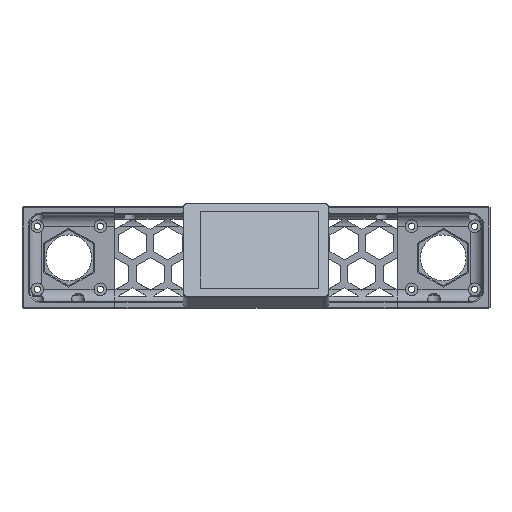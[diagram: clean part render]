
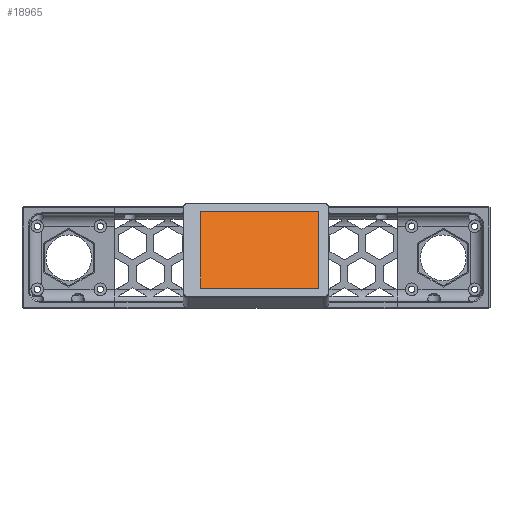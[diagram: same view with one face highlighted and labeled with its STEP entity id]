
A CAD part, top view. The second image highlights one B-rep face of the part: STEP entity #18965.
In plain terms, the highlighted planar face has unit normal (0, 0.5, 0.866) as drawn and (0, 0, 1) by its records, which use the part's own axes.
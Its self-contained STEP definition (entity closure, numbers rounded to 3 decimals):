
#1156=PLANE('',#20264);
#2113=FACE_OUTER_BOUND('',#3259,.T.);
#3259=EDGE_LOOP('',(#16475,#16476,#16477,#16478));
#5178=LINE('',#29962,#7409);
#5182=LINE('',#29970,#7413);
#5185=LINE('',#29976,#7416);
#5188=LINE('',#29981,#7419);
#7409=VECTOR('',#24132,10.);
#7413=VECTOR('',#24138,10.);
#7416=VECTOR('',#24143,10.);
#7419=VECTOR('',#24148,10.);
#9542=VERTEX_POINT('',#29960);
#9543=VERTEX_POINT('',#29961);
#9546=VERTEX_POINT('',#29969);
#9548=VERTEX_POINT('',#29975);
#11936=EDGE_CURVE('',#9542,#9543,#5178,.T.);
#11940=EDGE_CURVE('',#9546,#9542,#5182,.T.);
#11943=EDGE_CURVE('',#9548,#9546,#5185,.T.);
#11946=EDGE_CURVE('',#9543,#9548,#5188,.T.);
#16475=ORIENTED_EDGE('',*,*,#11946,.F.);
#16476=ORIENTED_EDGE('',*,*,#11936,.F.);
#16477=ORIENTED_EDGE('',*,*,#11940,.F.);
#16478=ORIENTED_EDGE('',*,*,#11943,.F.);
#18965=ADVANCED_FACE('',(#2113),#1156,.T.);
#20264=AXIS2_PLACEMENT_3D('',#29983,#24150,#24151);
#24132=DIRECTION('',(0.,-1.,0.));
#24138=DIRECTION('',(1.,0.,0.));
#24143=DIRECTION('',(0.,1.,0.));
#24148=DIRECTION('',(-1.,0.,0.));
#24150=DIRECTION('center_axis',(0.,0.,1.));
#24151=DIRECTION('ref_axis',(1.,0.,0.));
#29960=CARTESIAN_POINT('',(30.95,21.8,-0.5));
#29961=CARTESIAN_POINT('',(30.95,-21.8,-0.5));
#29962=CARTESIAN_POINT('',(30.95,21.8,-0.5));
#29969=CARTESIAN_POINT('',(-27.05,21.8,-0.5));
#29970=CARTESIAN_POINT('',(-27.05,21.8,-0.5));
#29975=CARTESIAN_POINT('',(-27.05,-21.8,-0.5));
#29976=CARTESIAN_POINT('',(-27.05,-21.8,-0.5));
#29981=CARTESIAN_POINT('',(30.95,-21.8,-0.5));
#29983=CARTESIAN_POINT('Origin',(1.95,0.,-0.5));
